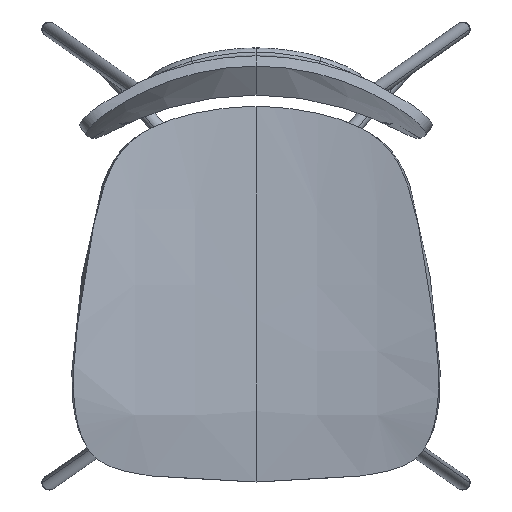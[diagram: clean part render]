
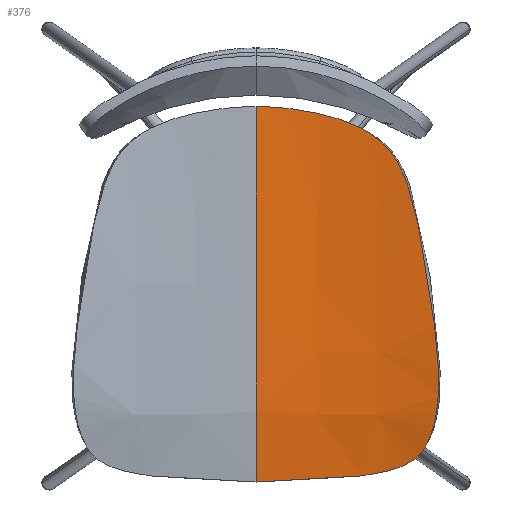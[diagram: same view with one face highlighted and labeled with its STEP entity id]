
A CAD part, top view. The second image highlights one B-rep face of the part: STEP entity #376.
In plain terms, the highlighted free-form (B-spline) face has degree [3, 3] with [8, 4] control points.
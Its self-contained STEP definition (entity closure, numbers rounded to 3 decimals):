
#15=B_SPLINE_SURFACE_WITH_KNOTS('',3,3,((#4760,#4761,#4762,#4763),(#4764,
#4765,#4766,#4767),(#4768,#4769,#4770,#4771),(#4772,#4773,#4774,#4775),
(#4776,#4777,#4778,#4779),(#4780,#4781,#4782,#4783),(#4784,#4785,#4786,
#4787),(#4788,#4789,#4790,#4791)),.UNSPECIFIED.,.F.,.F.,.F.,(4,1,1,1,1,
4),(4,4),(-2.122,83.374,166.749,250.123,
333.498,418.085),(0.,205.592),.UNSPECIFIED.);
#74=B_SPLINE_CURVE_WITH_KNOTS('',3,(#5202,#5203,#5204,#5205,#5206,#5207,
#5208,#5209),.UNSPECIFIED.,.F.,.F.,(4,1,1,1,1,4),(-416.872,-333.498,
-250.123,-166.749,-83.374,0.),
 .UNSPECIFIED.);
#76=B_SPLINE_CURVE_WITH_KNOTS('',3,(#5218,#5219,#5220,#5221,#5222,#5223,
#5224,#5225,#5226,#5227,#5228,#5229,#5230,#5231,#5232,#5233,#5234,#5235,
#5236,#5237,#5238,#5239,#5240,#5241,#5242,#5243,#5244,#5245,#5246,#5247,
#5248,#5249,#5250,#5251,#5252,#5253,#5254,#5255,#5256,#5257,#5258,#5259,
#5260,#5261,#5262,#5263,#5264,#5265,#5266,#5267,#5268,#5269,#5270,#5271,
#5272,#5273,#5274,#5275,#5276,#5277,#5278),.UNSPECIFIED.,.F.,.F.,(4,2,3,
2,3,2,3,2,3,3,2,3,3,2,3,3,3,3,2,3,2,3,2,4),(0.,44.16,88.187,
122.142,155.331,176.577,198.398,216.75,
235.109,246.754,276.482,306.136,312.227,
346.154,380.2,397.996,465.6,479.497,
510.211,541.573,574.15,606.174,652.119,
698.326),.UNSPECIFIED.);
#376=ADVANCED_FACE('',(#546),#15,.T.);
#546=FACE_OUTER_BOUND('',#718,.T.);
#718=EDGE_LOOP('',(#1118,#1119));
#1118=ORIENTED_EDGE('',*,*,#1662,.T.);
#1119=ORIENTED_EDGE('',*,*,#1660,.T.);
#1660=EDGE_CURVE('',#2123,#2122,#74,.T.);
#1662=EDGE_CURVE('',#2122,#2123,#76,.T.);
#2122=VERTEX_POINT('',#5198);
#2123=VERTEX_POINT('',#5199);
#4760=CARTESIAN_POINT('',(202.,-251.94,449.802));
#4761=CARTESIAN_POINT('',(134.667,-251.94,450.128));
#4762=CARTESIAN_POINT('',(67.333,-251.94,450.291));
#4763=CARTESIAN_POINT('',(0.,-251.94,450.291));
#4764=CARTESIAN_POINT('',(202.,-225.854,459.302));
#4765=CARTESIAN_POINT('',(134.667,-225.854,455.199));
#4766=CARTESIAN_POINT('',(67.333,-225.854,453.148));
#4767=CARTESIAN_POINT('',(0.,-225.854,453.148));
#4768=CARTESIAN_POINT('',(202.,-176.494,468.164));
#4769=CARTESIAN_POINT('',(134.667,-176.494,459.211));
#4770=CARTESIAN_POINT('',(67.333,-176.494,454.734));
#4771=CARTESIAN_POINT('',(0.,-176.494,454.734));
#4772=CARTESIAN_POINT('',(202.,-106.268,469.331));
#4773=CARTESIAN_POINT('',(134.667,-106.268,455.976));
#4774=CARTESIAN_POINT('',(67.333,-106.268,449.299));
#4775=CARTESIAN_POINT('',(0.,-106.268,449.299));
#4776=CARTESIAN_POINT('',(202.,-33.646,466.609));
#4777=CARTESIAN_POINT('',(134.667,-33.646,449.797));
#4778=CARTESIAN_POINT('',(67.333,-33.646,441.391));
#4779=CARTESIAN_POINT('',(0.,-33.646,441.391));
#4780=CARTESIAN_POINT('',(202.,46.672,461.687));
#4781=CARTESIAN_POINT('',(134.667,46.55,443.605));
#4782=CARTESIAN_POINT('',(67.333,46.489,434.564));
#4783=CARTESIAN_POINT('',(0.,46.489,434.564));
#4784=CARTESIAN_POINT('',(202.,119.353,456.276));
#4785=CARTESIAN_POINT('',(134.667,119.292,438.688));
#4786=CARTESIAN_POINT('',(67.333,119.261,429.894));
#4787=CARTESIAN_POINT('',(0.,119.261,429.894));
#4788=CARTESIAN_POINT('',(202.,165.999,452.553));
#4789=CARTESIAN_POINT('',(134.667,166.002,435.779));
#4790=CARTESIAN_POINT('',(67.333,166.004,427.393));
#4791=CARTESIAN_POINT('',(0.,166.004,427.393));
#5198=CARTESIAN_POINT('',(0.,-250.,450.5));
#5199=CARTESIAN_POINT('',(0.,164.,427.5));
#5202=CARTESIAN_POINT('',(0.,164.,427.5));
#5203=CARTESIAN_POINT('',(0.,118.211,429.962));
#5204=CARTESIAN_POINT('',(0.,46.103,434.597));
#5205=CARTESIAN_POINT('',(0.,-33.646,441.391));
#5206=CARTESIAN_POINT('',(0.,-106.268,449.299));
#5207=CARTESIAN_POINT('',(0.,-175.903,454.689));
#5208=CARTESIAN_POINT('',(0.,-224.614,453.187));
#5209=CARTESIAN_POINT('',(0.,-250.,450.5));
#5218=CARTESIAN_POINT('',(0.,-250.,450.5));
#5219=CARTESIAN_POINT('',(14.645,-250.,450.5));
#5220=CARTESIAN_POINT('',(29.444,-249.699,450.529));
#5221=CARTESIAN_POINT('',(58.666,-248.509,450.681));
#5222=CARTESIAN_POINT('',(73.529,-247.603,450.807));
#5223=CARTESIAN_POINT('',(88.076,-246.357,451.043));
#5224=CARTESIAN_POINT('',(99.003,-245.422,451.22));
#5225=CARTESIAN_POINT('',(110.527,-244.231,451.473));
#5226=CARTESIAN_POINT('',(131.976,-241.058,452.256));
#5227=CARTESIAN_POINT('',(143.884,-238.818,452.857));
#5228=CARTESIAN_POINT('',(154.052,-235.43,453.804));
#5229=CARTESIAN_POINT('',(160.778,-233.188,454.43));
#5230=CARTESIAN_POINT('',(167.305,-230.268,455.259));
#5231=CARTESIAN_POINT('',(178.939,-221.897,457.481));
#5232=CARTESIAN_POINT('',(183.434,-216.798,458.771));
#5233=CARTESIAN_POINT('',(187.126,-210.613,460.121));
#5234=CARTESIAN_POINT('',(190.195,-205.469,461.243));
#5235=CARTESIAN_POINT('',(192.553,-199.838,462.34));
#5236=CARTESIAN_POINT('',(196.214,-188.393,464.246));
#5237=CARTESIAN_POINT('',(197.563,-182.433,465.082));
#5238=CARTESIAN_POINT('',(198.561,-176.475,465.772));
#5239=CARTESIAN_POINT('',(199.197,-172.676,466.212));
#5240=CARTESIAN_POINT('',(199.697,-168.836,466.599));
#5241=CARTESIAN_POINT('',(200.085,-164.993,466.93));
#5242=CARTESIAN_POINT('',(201.074,-155.196,467.773));
#5243=CARTESIAN_POINT('',(201.35,-145.266,468.255));
#5244=CARTESIAN_POINT('',(201.066,-125.544,468.624));
#5245=CARTESIAN_POINT('',(200.504,-115.584,468.518));
#5246=CARTESIAN_POINT('',(199.717,-105.77,468.239));
#5247=CARTESIAN_POINT('',(199.555,-103.747,468.182));
#5248=CARTESIAN_POINT('',(199.383,-101.725,468.117));
#5249=CARTESIAN_POINT('',(199.202,-99.704,468.045));
#5250=CARTESIAN_POINT('',(198.199,-88.51,467.648));
#5251=CARTESIAN_POINT('',(196.904,-77.103,467.025));
#5252=CARTESIAN_POINT('',(194.058,-54.806,465.502));
#5253=CARTESIAN_POINT('',(192.456,-43.541,464.579));
#5254=CARTESIAN_POINT('',(190.752,-32.431,463.576));
#5255=CARTESIAN_POINT('',(189.857,-26.591,463.048));
#5256=CARTESIAN_POINT('',(188.927,-20.758,462.495));
#5257=CARTESIAN_POINT('',(187.966,-14.933,461.921));
#5258=CARTESIAN_POINT('',(184.435,6.475,459.811));
#5259=CARTESIAN_POINT('',(180.13,29.93,457.187));
#5260=CARTESIAN_POINT('',(174.887,50.936,454.522));
#5261=CARTESIAN_POINT('',(173.777,55.384,453.958));
#5262=CARTESIAN_POINT('',(172.592,59.852,453.376));
#5263=CARTESIAN_POINT('',(171.331,64.256,452.783));
#5264=CARTESIAN_POINT('',(168.548,73.973,451.475));
#5265=CARTESIAN_POINT('',(165.249,83.889,450.046));
#5266=CARTESIAN_POINT('',(156.767,102.444,446.962));
#5267=CARTESIAN_POINT('',(151.539,111.092,445.296));
#5268=CARTESIAN_POINT('',(144.65,118.756,443.493));
#5269=CARTESIAN_POINT('',(137.484,126.729,441.617));
#5270=CARTESIAN_POINT('',(129.077,133.016,439.749));
#5271=CARTESIAN_POINT('',(110.51,143.312,436.273));
#5272=CARTESIAN_POINT('',(100.489,147.29,434.689));
#5273=CARTESIAN_POINT('',(90.438,150.529,433.356));
#5274=CARTESIAN_POINT('',(76.043,155.166,431.447));
#5275=CARTESIAN_POINT('',(60.871,158.521,429.956));
#5276=CARTESIAN_POINT('',(30.696,162.916,427.997));
#5277=CARTESIAN_POINT('',(15.32,164.,427.5));
#5278=CARTESIAN_POINT('',(0.,164.,427.5));
